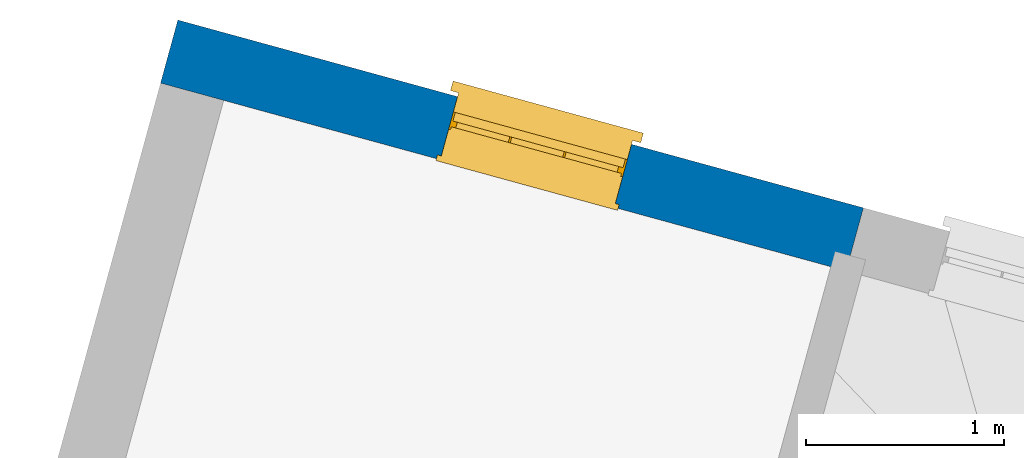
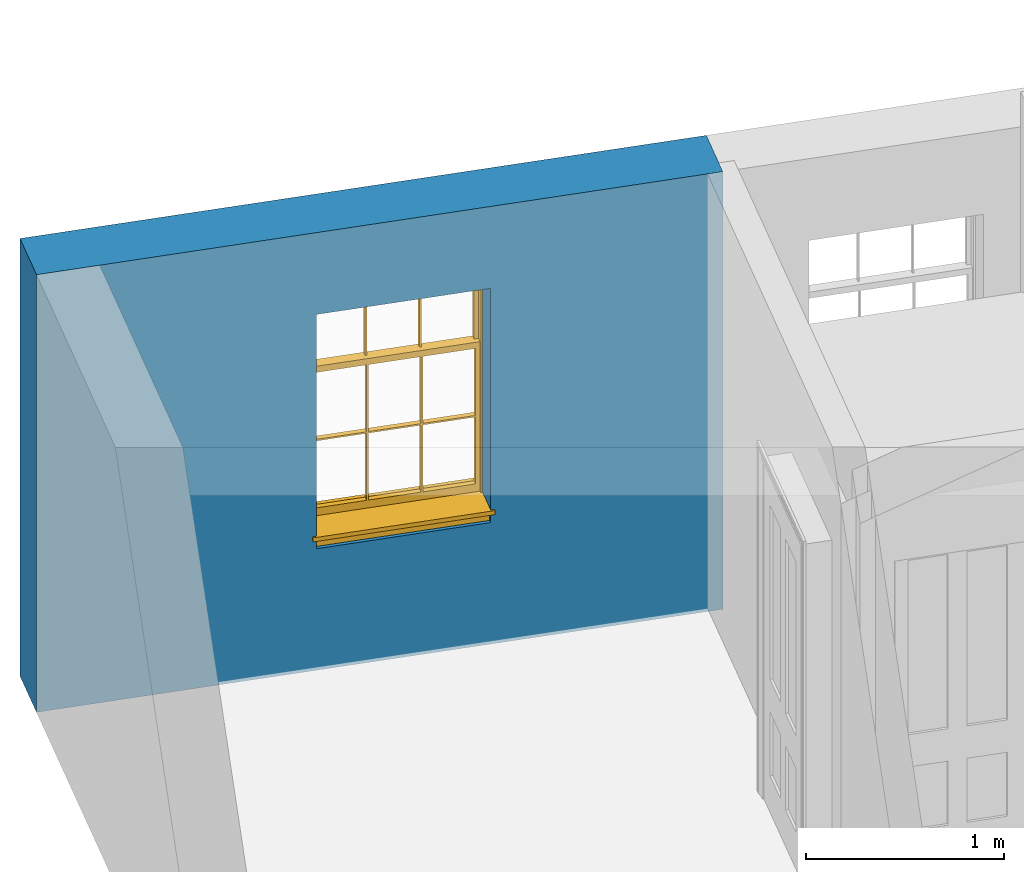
# One storey, part 3 of 4: 1 wall, 1 window, 1 opening.
"""IFC4 building model written with IfcOpenShell, lengths in metres."""

from ifc_helpers import new_model, si_unit, frame, origin, origin_with_axes, place, context, subcontext, project, spatial, polyline, outline, extrude, faceted_brep, source, transform, mapped, material, layer, layer_set, layer_usage, type_object, type_shapes, element, fill, save


model = new_model("IFC4")

# Units and contexts
model_context = context("Model", 3, world=origin_with_axes())
body_context = subcontext(model_context, "Body", "Model", "MODEL_VIEW")
ifc_project = project(units=[si_unit("PLANEANGLEUNIT", "RADIAN"), si_unit("MASSUNIT", "GRAM", prefix="KILO"), si_unit("FORCEUNIT", "NEWTON", prefix="KILO"), si_unit("LENGTHUNIT", "METRE"), si_unit("AREAUNIT", "SQUARE_METRE"), si_unit("VOLUMEUNIT", "CUBIC_METRE")], contexts=[model_context, model_context])

# Sites, building, storey
site_1_placement = place(None, origin_with_axes())
site_1 = spatial("IfcSite", under=ifc_project, at=site_1_placement, Name="Tamar")
site_2_placement = place(site_1_placement, origin_with_axes())
site_2 = spatial("IfcSite", under=site_1, at=site_2_placement, Name="Site plot-29", CompositionType="ELEMENT")
building_placement = place(None, origin_with_axes())
building = spatial("IfcBuilding", under=site_2, at=building_placement, Name="Building plot-29", CompositionType="ELEMENT")
storey_placement = place(None, frame((0.0, 0.0, 27.85), z_axis=(0.0, 0.0, 1.0), x_axis=(1.0, 0.0, 0.0)))
storey = spatial("IfcBuildingStorey", under=building, at=storey_placement, Name="plot-29 1", CompositionType="ELEMENT", Elevation=27.85)

# Wall, opening, window
ifc_material = material(Name="Masonry")
ifc_layer = layer(ifc_material, 0.33, ventilated=False)
ifc_layer_set = layer_set([ifc_layer], Name="exterior_0.08_0.25")
ifc_layer_usage = layer_usage(ifc_layer_set, "AXIS2", "POSITIVE", -0.25)
wall_type = type_object("IfcWallType", Name="exterior_0.08_0.25", PredefinedType="SOLIDWALL", material=ifc_layer_set)
wall_placement = place(storey_placement, frame((274.285325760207, 265.17368875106, 0.0), z_axis=(0.0, 0.0, 1.0), x_axis=(-0.96445276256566, 0.264255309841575, 0.0)))
wall = element("IfcWall", 1, at=wall_placement, inside=storey, type_object=wall_type, material=ifc_layer_usage, Name="exterior", context=body_context, shape_type="SweptSolid", body=[
    extrude(outline(polyline([(2.80002823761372e-14, 0.0799999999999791), (-3.82318751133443e-14, -0.24999999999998), (3.58559293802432, -0.249999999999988), (3.58559293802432, 0.0800000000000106), (2.80002823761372e-14, 0.0799999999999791)])), origin_with_axes(), (0.0, 0.0, 1.0), 2.7),
])
opening_placement = place(wall_placement, frame((1.21279646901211, 0.0, 0.75)))
opening = element("IfcOpeningElement", 2, at=opening_placement, cuts=wall, Name="My Opening", ObjectType="Opening", context=body_context, shape_type="SweptSolid", body=[
    extrude(outline(polyline([(0.0, -0.270000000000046), (0.910000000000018, -0.270000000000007), (0.910000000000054, 1.10000000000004), (3.61932706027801e-14, 1.10000000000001), (0.0, -0.270000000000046)])), origin_with_axes(), (0.0, 0.0, 1.0), 1.445),
])
window_type = type_object("IfcWindowType", Name="sash_shorter", PartitioningType="DOUBLE_PANEL_HORIZONTAL", PredefinedType="NOTDEFINED")
shared_shape = source(origin(), body_context, "Body", "Brep", [
    faceted_brep([(0.876875, 0.145, 0.999097), (0.876875, 0.145, 1.411875), (0.9, 0.145, 1.435), (0.033125, 0.145, 1.411875), (0.033125, 0.145, 0.999097), (0.01, 0.145, 1.435), (0.033125, 0.115, 1.411875), (0.01, 0.115, 1.435), (0.033125, 0.115, 0.999097), (0.876875, 0.115, 1.411875), (0.876875, 0.115, 0.999097), (0.9, 0.115, 1.435), (0.033125, 0.145, 0.960972), (0.01, 0.145, 0.960972), (0.033125, 0.145, 0.548195), (0.876875, 0.145, 0.960972), (0.876875, 0.145, 0.548195), (0.9, 0.145, 0.960972), (0.876875, 0.145, 0.538195), (0.876875, 0.145, 0.125417), (0.9, 0.145, 0.077167), (0.033125, 0.145, 0.125417), (0.033125, 0.145, 0.538195), (0.01, 0.145, 0.077167), (0.9, 0.115, 0.960972), (0.01, 0.115, 0.960972), (-0.0425, 0.0, 0.01), (-0.0425, -0.05, 0.001667), (0.0, 0.0, 0.01), (0.9525, 0.0, 0.01), (0.91, 0.0, 0.01), (0.9525, -0.05, 0.001667), (-0.02, 0.33, 0.077167), (0.0, 0.33, 0.077167), (-0.02, 0.36, 0.077167), (0.0, 0.19, 0.077167), (0.01, 0.19, 0.077167), (0.91, 0.19, 0.077167), (0.91, 0.33, 0.077167), (0.9, 0.19, 0.077167), (0.93, 0.33, 0.077167), (0.93, 0.36, 0.077167), (0.01, 0.145, 0.999097), (0.01, 0.175, 0.999097), (0.9, 0.145, 0.999097), (0.9, 0.175, 0.999097), (0.876875, 0.175, 0.125417), (0.876875, 0.175, 0.538195), (0.9, 0.175, 0.077167), (0.876875, 0.175, 0.548195), (0.876875, 0.175, 0.960972), (0.033125, 0.175, 0.125417), (0.01, 0.175, 0.077167), (0.033125, 0.175, 0.538195), (0.033125, 0.175, 0.960972), (0.033125, 0.175, 0.548195), (-0.02, 0.33, 0.052167), (-0.02, 0.36, 0.052167), (0.93, 0.36, 0.052167), (0.93, 0.33, 0.052167), (0.91, 0.33, 0.052167), (0.0, 0.33, 0.052167), (0.91, 0.1, 0.026667), (0.0, 0.1, 0.026667), (-0.0425, -0.05, -0.123333), (0.9525, -0.05, -0.123333), (-0.0425, 0.0, -0.123333), (0.9525, 0.0, -0.123333), (0.01, 0.19, 1.435), (0.9, 0.19, 1.435), (0.0, 0.19, 1.445), (0.91, 0.19, 1.445), (0.01, 0.1, 0.077167), (0.9, 0.1, 0.077167), (0.592292, 0.145, 0.125417), (0.592292, 0.175, 0.125417), (0.317708, 0.175, 0.125417), (0.317708, 0.145, 0.125417), (0.592292, 0.145, 0.548195), (0.317708, 0.145, 0.548195), (0.317708, 0.145, 0.538195), (0.592292, 0.145, 0.538195), (0.592292, 0.175, 0.548195), (0.317708, 0.175, 0.548195), (0.602292, 0.175, 0.548195), (0.602292, 0.145, 0.548195), (0.317708, 0.175, 0.538195), (0.307708, 0.175, 0.125417), (0.307708, 0.175, 0.538195), (0.602292, 0.175, 0.538195), (0.602292, 0.175, 0.125417), (0.592292, 0.175, 0.538195), (0.307708, 0.175, 0.548195), (0.317708, 0.175, 0.960972), (0.307708, 0.175, 0.960972), (0.602292, 0.175, 0.960972), (0.592292, 0.175, 0.960972), (0.307708, 0.145, 0.538195), (0.307708, 0.145, 0.125417), (0.307708, 0.145, 0.548195), (0.307708, 0.145, 0.960972), (0.592292, 0.145, 0.960972), (0.317708, 0.145, 0.960972), (0.602292, 0.145, 0.960972), (0.602292, 0.145, 0.538195), (0.602292, 0.145, 0.125417), (0.317708, 0.115, 1.411875), (0.307708, 0.115, 1.411875), (0.307708, 0.115, 0.999097), (0.317708, 0.115, 0.999097), (0.602292, 0.115, 1.411875), (0.592292, 0.115, 1.411875), (0.592292, 0.115, 0.999097), (0.602292, 0.115, 0.999097), (0.317708, 0.145, 0.999097), (0.307708, 0.145, 0.999097), (0.307708, 0.145, 1.411875), (0.317708, 0.145, 1.411875), (0.602292, 0.145, 0.999097), (0.592292, 0.145, 0.999097), (0.592292, 0.145, 1.411875), (0.602292, 0.145, 1.411875), (0.91, 0.1, 1.445), (0.9, 0.1, 1.435), (0.01, 0.1, 1.435), (0.0, 0.1, 1.445), (0.91, 0.0, 0.0), (0.0, 0.0, 0.0), (0.91, 0.33, 0.0), (0.0, 0.33, 0.0)], [[[0, 1, 2]], [[3, 4, 5]], [[6, 7, 8]], [[9, 10, 11]], [[12, 13, 14]], [[15, 16, 17]], [[18, 19, 20]], [[21, 22, 23]], [[24, 15, 17]], [[13, 12, 25]], [[26, 27, 28]], [[29, 30, 31]], [[32, 33, 34]], [[35, 36, 33]], [[37, 38, 39]], [[40, 41, 38]], [[42, 4, 43]], [[44, 45, 0]], [[46, 47, 48]], [[49, 50, 45]], [[51, 52, 53]], [[54, 55, 43]], [[38, 33, 36, 39]], [[41, 34, 33, 38]], [[56, 32, 34, 57]], [[57, 34, 41, 58]], [[58, 41, 40, 59]], [[57, 58, 60, 61]], [[52, 48, 39, 36]], [[62, 63, 28, 30]], [[27, 31, 30, 28]], [[27, 64, 65, 31]], [[66, 67, 65, 64]], [[2, 5, 68, 69]], [[68, 70, 71, 69]], [[20, 23, 72, 73]], [[73, 72, 63, 62]], [[74, 75, 76, 77]], [[78, 79, 80, 81]], [[78, 82, 83, 79]], [[16, 49, 84, 85]], [[86, 76, 87, 88]], [[89, 90, 75, 91]], [[92, 88, 53, 55]], [[82, 91, 86, 83]], [[93, 83, 92, 94]], [[95, 84, 82, 96]], [[89, 84, 49, 47]], [[97, 88, 87, 98]], [[22, 53, 88, 97]], [[81, 91, 75, 74]], [[80, 86, 91, 81]], [[77, 76, 86, 80]], [[99, 92, 55, 14]], [[100, 94, 92, 99]], [[101, 96, 82, 78]], [[79, 83, 93, 102]], [[85, 84, 95, 103]], [[104, 89, 47, 18]], [[105, 90, 89, 104]], [[104, 18, 16, 85]], [[80, 97, 98, 77]], [[104, 81, 74, 105]], [[103, 101, 78, 85]], [[99, 14, 22, 97]], [[102, 100, 99, 79]], [[106, 107, 108, 109]], [[110, 111, 112, 113]], [[114, 115, 116, 117]], [[118, 119, 120, 121]], [[107, 116, 115, 108]], [[111, 120, 119, 112]], [[109, 114, 117, 106]], [[113, 118, 121, 110]], [[85, 78, 81, 104]], [[84, 89, 91, 82]], [[83, 86, 88, 92]], [[79, 99, 97, 80]], [[109, 112, 119, 114]], [[102, 93, 96, 101]], [[106, 117, 120, 111]], [[98, 87, 51, 21]], [[6, 3, 116, 107]], [[110, 121, 1, 9]], [[19, 46, 90, 105]], [[26, 66, 64, 27]], [[29, 31, 65, 67]], [[25, 24, 112, 109]], [[11, 7, 106, 111]], [[75, 48, 52, 76]], [[43, 45, 96, 93]], [[45, 43, 114, 119]], [[5, 2, 120, 117]], [[24, 25, 102, 101]], [[42, 5, 4]], [[2, 44, 0]], [[49, 45, 48, 47]], [[52, 43, 55, 53]], [[14, 13, 23, 22]], [[20, 17, 16, 18]], [[24, 11, 10]], [[25, 8, 7]], [[8, 4, 3, 6]], [[9, 1, 0, 10]], [[15, 50, 49, 16]], [[18, 47, 46, 19]], [[21, 51, 53, 22]], [[14, 55, 54, 12]], [[44, 2, 69, 45]], [[68, 5, 42, 43]], [[36, 35, 70, 68]], [[39, 69, 71, 37]], [[62, 122, 123, 73]], [[63, 72, 124, 125]], [[8, 108, 115, 4]], [[113, 10, 0, 118]], [[94, 100, 12, 54]], [[17, 20, 73, 24]], [[72, 23, 13, 25]], [[52, 36, 68, 43]], [[69, 39, 48, 45]], [[11, 24, 73, 123]], [[7, 124, 72, 25]], [[23, 77, 98]], [[98, 21, 23]], [[105, 74, 20]], [[20, 19, 105]], [[20, 74, 77, 23]], [[113, 112, 24]], [[24, 10, 113]], [[25, 109, 108]], [[108, 8, 25]], [[110, 9, 11]], [[11, 111, 110]], [[7, 6, 107]], [[107, 106, 7]], [[5, 117, 116]], [[116, 3, 5]], [[121, 120, 2]], [[2, 1, 121]], [[11, 123, 124, 7]], [[122, 125, 124, 123]], [[43, 93, 94]], [[94, 54, 43]], [[96, 45, 95]], [[50, 95, 45]], [[15, 103, 95, 50]], [[48, 75, 90]], [[90, 46, 48]], [[87, 76, 52]], [[52, 51, 87]], [[103, 15, 24]], [[24, 101, 103]], [[100, 102, 25]], [[25, 12, 100]], [[115, 114, 43]], [[43, 4, 115]], [[118, 0, 45]], [[45, 119, 118]], [[71, 70, 125, 122]], [[70, 35, 63, 125]], [[122, 62, 37, 71]], [[126, 67, 66, 127]], [[60, 58, 59]], [[38, 60, 59, 40]], [[61, 56, 57]], [[32, 56, 61, 33]], [[61, 60, 128, 129]], [[62, 60, 38, 37]], [[126, 128, 60, 62]], [[33, 61, 63, 35]], [[61, 129, 127, 63]], [[128, 126, 127, 129]], [[28, 127, 66, 26]], [[63, 127, 28]], [[29, 67, 126, 30]], [[30, 126, 62]]]),
])
type_shapes(window_type, [shared_shape])
window_placement = place(storey_placement, frame((273.186989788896, 265.754578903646, 0.75), z_axis=(0.0, 0.0, 1.0), x_axis=(-0.877652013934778, 0.2404723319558, 0.0)))
window = element("IfcWindow", 3, at=window_placement, inside=storey, type_object=window_type, Name="bedroom outside window", OverallHeight=1.445, OverallWidth=0.91, context=body_context, shape_type="MappedRepresentation", body=[
    mapped(shared_shape, transform((0.0, 0.0, 0.0), scale=1.0)),
])
fill(opening, window)

save(model, "model.ifc")
